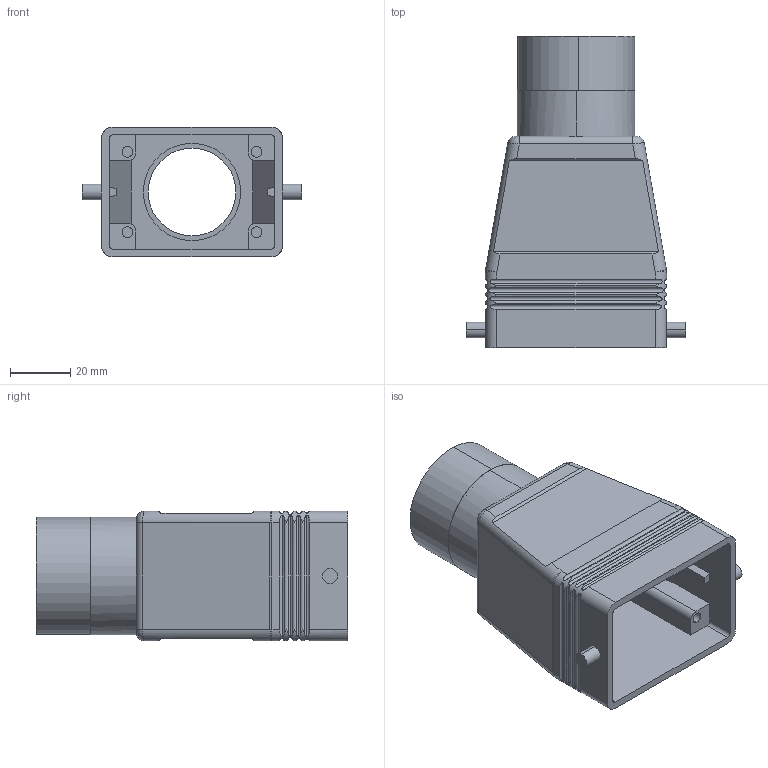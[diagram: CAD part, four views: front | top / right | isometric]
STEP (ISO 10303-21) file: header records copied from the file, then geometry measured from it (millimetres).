
FILE_DESCRIPTION (( 'STEP AP203' ), '1' );
FILE_NAME ('CAVT-06.6L.stp', '2016-10-17T18:41:21', ( '' ), ( '' ), 'SwSTEP 2.0', 'SolidWorks 2016', '' );
FILE_SCHEMA (( 'CONFIG_CONTROL_DESIGN' ));
Length unit declared in the file: inch
Products named in the file (1): CAVT-06.6L
Bounding box: 72.7 x 103.12 x 43 mm (x, y, z)
Volume: 57481.1 mm3; surface area: 40825.2 mm2
Topology: 3 solids, 3 shells, 220 faces, 590 edges, 386 vertices
Faces by surface type: cylinder 131, plane 69, bspline 10, torus 6, sphere 4
Entity records: 10075 total; most frequent: CARTESIAN_POINT 4916, ORIENTED_EDGE 1180, DIRECTION 926, EDGE_CURVE 590, VERTEX_POINT 386, AXIS2_PLACEMENT_3D 329, LINE 268, VECTOR 268
